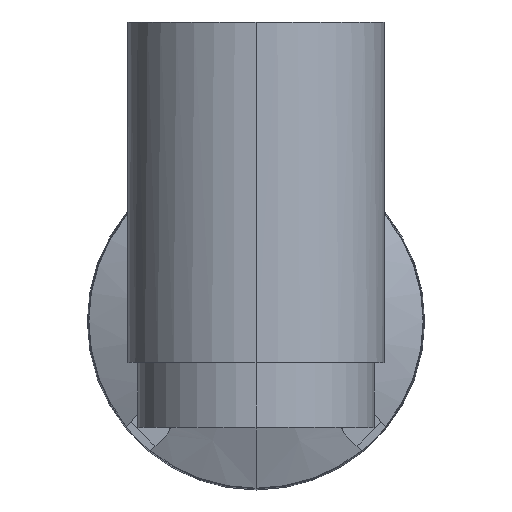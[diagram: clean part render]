
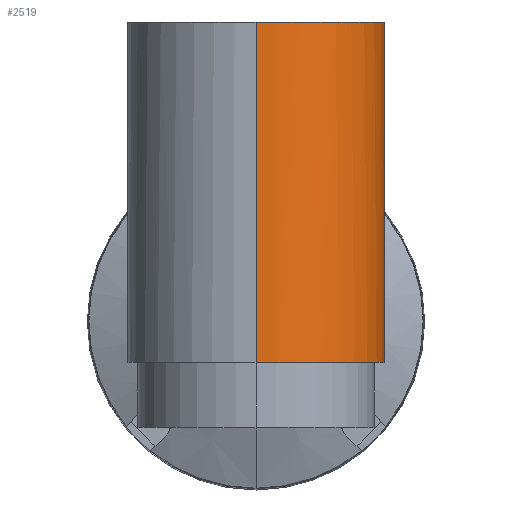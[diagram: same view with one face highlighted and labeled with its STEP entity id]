
A CAD part, top view. The second image highlights one B-rep face of the part: STEP entity #2519.
In plain terms, the highlighted cylindrical face has radius 37.5 mm (diameter 75 mm), a partial arc.
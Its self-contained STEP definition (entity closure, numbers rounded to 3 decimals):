
#132=CYLINDRICAL_SURFACE('',#2766,37.5);
#233=FACE_OUTER_BOUND('',#403,.T.);
#403=EDGE_LOOP('',(#1886,#1887,#1888,#1889,#1890,#1891));
#577=LINE('',#4163,#747);
#580=LINE('',#4183,#750);
#581=LINE('',#4186,#751);
#747=VECTOR('',#3314,304.8);
#750=VECTOR('',#3323,304.8);
#751=VECTOR('',#3326,304.8);
#918=CIRCLE('',#2763,37.5);
#919=CIRCLE('',#2767,37.5);
#920=CIRCLE('',#2768,37.5);
#1098=VERTEX_POINT('',#4153);
#1099=VERTEX_POINT('',#4156);
#1100=VERTEX_POINT('',#4160);
#1104=VERTEX_POINT('',#4180);
#1105=VERTEX_POINT('',#4181);
#1106=VERTEX_POINT('',#4184);
#1376=EDGE_CURVE('',#1098,#1099,#918,.T.);
#1378=EDGE_CURVE('',#1099,#1100,#577,.T.);
#1383=EDGE_CURVE('',#1104,#1105,#919,.T.);
#1384=EDGE_CURVE('',#1098,#1104,#580,.T.);
#1385=EDGE_CURVE('',#1106,#1100,#920,.T.);
#1386=EDGE_CURVE('',#1105,#1106,#581,.T.);
#1886=ORIENTED_EDGE('',*,*,#1383,.F.);
#1887=ORIENTED_EDGE('',*,*,#1384,.F.);
#1888=ORIENTED_EDGE('',*,*,#1376,.T.);
#1889=ORIENTED_EDGE('',*,*,#1378,.T.);
#1890=ORIENTED_EDGE('',*,*,#1385,.F.);
#1891=ORIENTED_EDGE('',*,*,#1386,.F.);
#2519=ADVANCED_FACE('',(#233),#132,.T.);
#2763=AXIS2_PLACEMENT_3D('',#4158,#3309,#3310);
#2766=AXIS2_PLACEMENT_3D('',#4179,#3319,#3320);
#2767=AXIS2_PLACEMENT_3D('',#4182,#3321,#3322);
#2768=AXIS2_PLACEMENT_3D('',#4185,#3324,#3325);
#3309=DIRECTION('center_axis',(-1.,0.,0.));
#3310=DIRECTION('ref_axis',(0.,0.,
1.));
#3314=DIRECTION('',(1.,0.,0.));
#3319=DIRECTION('center_axis',(-1.,0.,0.));
#3320=DIRECTION('ref_axis',(0.,0.,
1.));
#3321=DIRECTION('center_axis',(-1.,0.,0.));
#3322=DIRECTION('ref_axis',(0.,0.,
1.));
#3323=DIRECTION('',(-1.,0.,0.));
#3324=DIRECTION('center_axis',(1.,0.,0.));
#3325=DIRECTION('ref_axis',(0.,0.,
1.));
#3326=DIRECTION('',(1.,0.,0.));
#4153=CARTESIAN_POINT('',(13.,0.,504.));
#4156=CARTESIAN_POINT('',(13.,-37.286,537.5));
#4158=CARTESIAN_POINT('Origin',(13.,0.,
541.5));
#4160=CARTESIAN_POINT('',(86.5,-37.286,537.5));
#4163=CARTESIAN_POINT('',(13.,-37.286,537.5));
#4179=CARTESIAN_POINT('Origin',(117.,0.,541.5));
#4180=CARTESIAN_POINT('',(-13.,0.,504.));
#4181=CARTESIAN_POINT('',(-13.,0.,579.));
#4182=CARTESIAN_POINT('Origin',(-13.,0.,
541.5));
#4183=CARTESIAN_POINT('',(13.,0.,504.));
#4184=CARTESIAN_POINT('',(86.5,0.,579.));
#4185=CARTESIAN_POINT('Origin',(86.5,0.,
541.5));
#4186=CARTESIAN_POINT('',(-13.,0.,579.));
